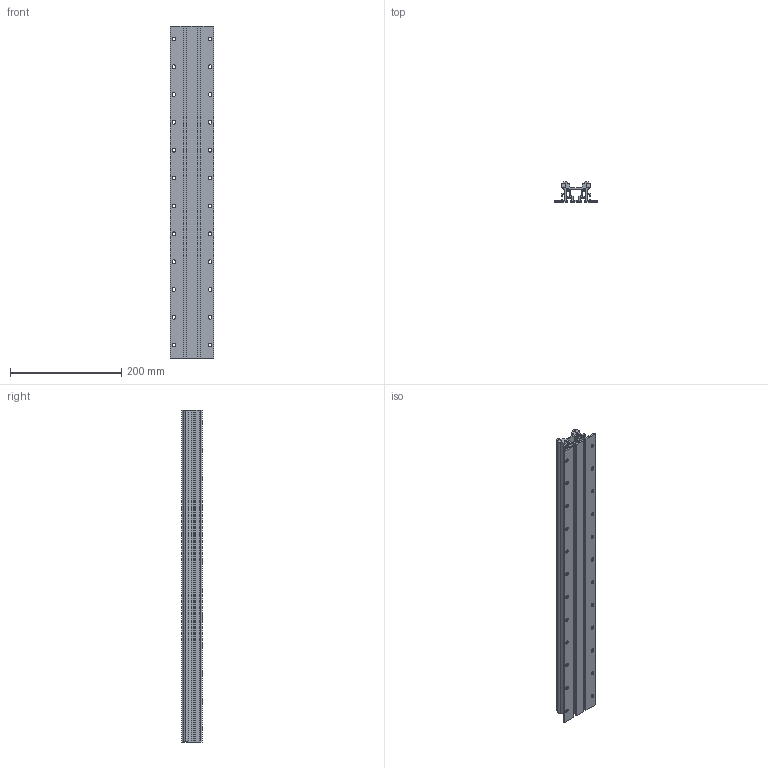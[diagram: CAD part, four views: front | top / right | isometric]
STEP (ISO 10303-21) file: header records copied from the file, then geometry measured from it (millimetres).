
FILE_DESCRIPTION (( 'STEP AP203' ), '1' );
FILE_NAME ('LFS-8-7_-_L=596.step', '2006-12-18T13:26:44', ( ' ' ), ( ' ' ), 'SwSTEP 2.0', 'SolidWorks 2006089', '' );
FILE_SCHEMA (( 'CONFIG_CONTROL_DESIGN' ));
Length unit declared in the file: millimetre
Products named in the file (1): LFS-8-7_-_L=596
Bounding box: 78 x 36 x 596 mm (x, y, z)
Volume: 515597.7 mm3; surface area: 332615.8 mm2
Topology: 3 solids, 3 shells, 271 faces, 819 edges, 530 vertices
Faces by surface type: plane 167, cylinder 104
Entity records: 9318 total; most frequent: CARTESIAN_POINT 1909, ORIENTED_EDGE 1638, DIRECTION 1475, EDGE_CURVE 819, VERTEX_POINT 530, VECTOR 515, LINE 515, AXIS2_PLACEMENT_3D 480
